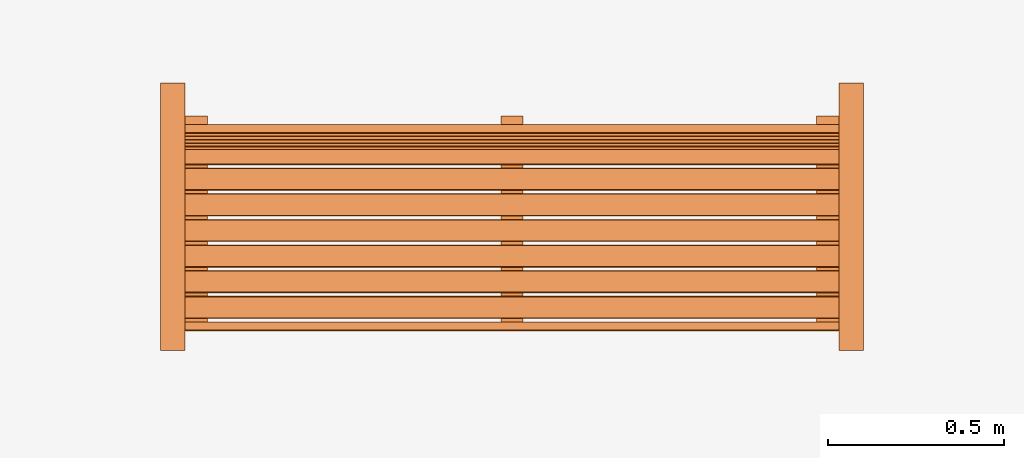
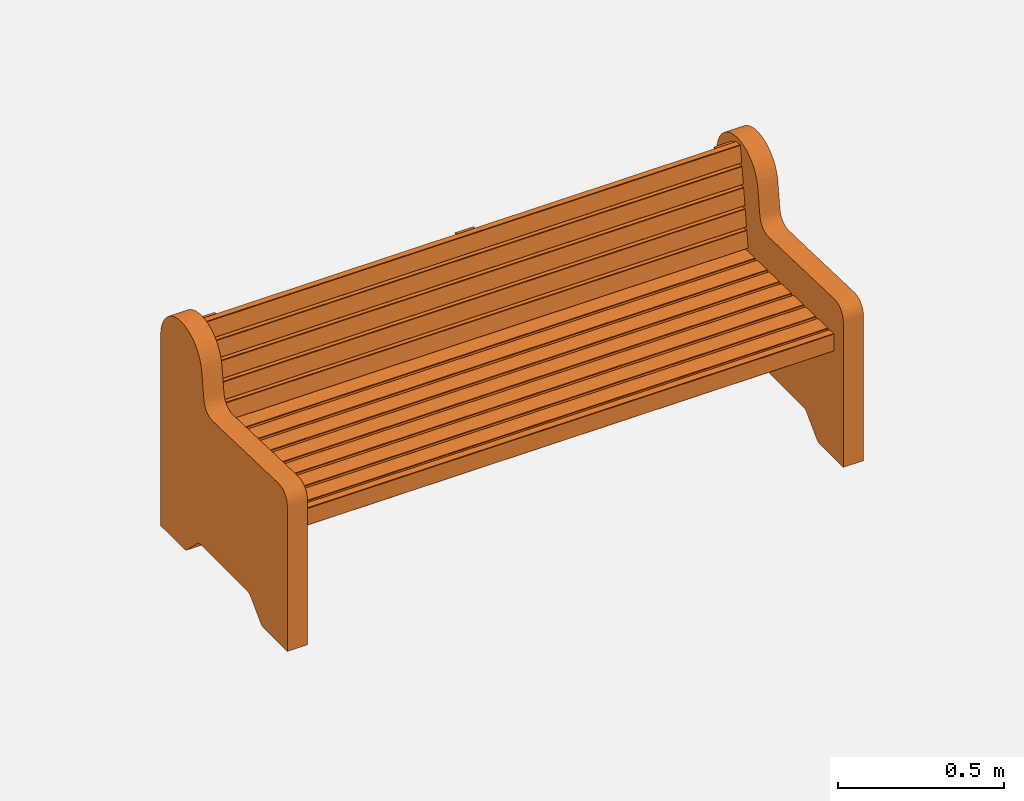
# One storey, part 4 of 6: 1 proxy.
"""IFC2X3 building model written with IfcOpenShell, lengths in millimetres."""

from ifc_helpers import new_model, entity, si_unit, converted_unit, derived_unit, direction, frame, frame_2d, origin, place, context, subcontext, project, spatial, polyline, circle_curve, parameter, trimmed, segment, composite_curve, outline, extrude, source, transform, mapped, material, material_list, element, save


model = new_model("IFC2X3")

# Units and contexts
model_context = context("Model", 3, precision=0.01, world=origin(), true_north=direction((6.12303176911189e-17, 1.0)))
body_context = subcontext(model_context, "Body", "Model", "MODEL_VIEW")
ifc_project = project(units=[si_unit("LENGTHUNIT", "METRE", prefix="MILLI"), si_unit("AREAUNIT", "SQUARE_METRE"), si_unit("VOLUMEUNIT", "CUBIC_METRE"), converted_unit("PLANEANGLEUNIT", "DEGREE", entity("IfcRatioMeasure", 0.0174532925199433), si_unit("PLANEANGLEUNIT", "RADIAN"), dimensions=[0, 0, 0, 0, 0, 0, 0]), si_unit("MASSUNIT", "GRAM", prefix="KILO"), derived_unit("MASSDENSITYUNIT", [(si_unit("MASSUNIT", "GRAM", prefix="KILO"), 1), (si_unit("LENGTHUNIT", "METRE"), -3)]), si_unit("TIMEUNIT", "SECOND"), si_unit("FREQUENCYUNIT", "HERTZ"), si_unit("THERMODYNAMICTEMPERATUREUNIT", "DEGREE_CELSIUS"), derived_unit("THERMALTRANSMITTANCEUNIT", [(si_unit("MASSUNIT", "GRAM", prefix="KILO"), 1), (si_unit("THERMODYNAMICTEMPERATUREUNIT", "KELVIN"), -1), (si_unit("TIMEUNIT", "SECOND"), -3)]), derived_unit("VOLUMETRICFLOWRATEUNIT", [(si_unit("LENGTHUNIT", "METRE"), 3), (si_unit("TIMEUNIT", "SECOND"), -1)]), si_unit("ELECTRICCURRENTUNIT", "AMPERE"), si_unit("ELECTRICVOLTAGEUNIT", "VOLT"), si_unit("POWERUNIT", "WATT"), si_unit("FORCEUNIT", "NEWTON", prefix="KILO"), si_unit("ILLUMINANCEUNIT", "LUX"), si_unit("LUMINOUSFLUXUNIT", "LUMEN"), si_unit("LUMINOUSINTENSITYUNIT", "CANDELA"), derived_unit("USERDEFINED", [(si_unit("MASSUNIT", "GRAM", prefix="KILO"), -1), (si_unit("LENGTHUNIT", "METRE"), -2), (si_unit("TIMEUNIT", "SECOND"), 3), (si_unit("LUMINOUSFLUXUNIT", "LUMEN"), 1)]), derived_unit("LINEARVELOCITYUNIT", [(si_unit("LENGTHUNIT", "METRE"), 1), (si_unit("TIMEUNIT", "SECOND"), -1)]), si_unit("PRESSUREUNIT", "PASCAL"), derived_unit("USERDEFINED", [(si_unit("LENGTHUNIT", "METRE"), -2), (si_unit("MASSUNIT", "GRAM", prefix="KILO"), 1), (si_unit("TIMEUNIT", "SECOND"), -2)])], contexts=[model_context])

# Site, building, storey
site_placement = place(None, origin())
site = spatial("IfcSite", under=ifc_project, at=site_placement, Name="表面", CompositionType="ELEMENT")
building_placement = place(site_placement, origin())
building = spatial("IfcBuilding", under=site, at=building_placement, CompositionType="ELEMENT")
storey_placement = place(building_placement, frame((0.0, 0.0, -450.0)))
storey = spatial("IfcBuildingStorey", under=building, at=storey_placement, Name="室外地坪", CompositionType="ELEMENT", Elevation=-449.999999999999)

# Proxy
ifc_material_1 = material(Name="木质座椅")
ifc_material_2 = material(Name="预制混凝土")
ifc_material_list = material_list([ifc_material_1, ifc_material_2])
shared_shape = source(origin(), body_context, "Body", "SweptSolid", [
    extrude(outline(polyline([(-148.388338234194, 117.2224287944), (362.786661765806, 117.2224287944), (362.786661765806, 142.6224287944), (-171.124368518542, 142.6224287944), (-215.652750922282, -258.443449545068), (-190.407865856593, -261.246265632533), (-148.388338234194, 117.2224287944)])), frame((8.11650433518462, 65.7169131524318, 539.475110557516), z_axis=(1.0, 0.0, 0.0), x_axis=(0.0, -0.999770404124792, 0.0214275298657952)), (0.0, 0.0, 1.0), 63.5),
    extrude(outline(polyline([(-148.388338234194, 117.2224287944), (362.786661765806, 117.2224287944), (362.786661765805, 142.6224287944), (-171.124368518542, 142.6224287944), (-215.652750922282, -258.443449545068), (-190.407865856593, -261.246265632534), (-148.388338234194, 117.2224287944)])), frame((906.516504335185, 65.7169131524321, 539.475110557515), z_axis=(1.0, 0.0, 0.0), x_axis=(0.0, -0.999770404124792, 0.0214275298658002)), (0.0, 0.0, 1.0), 63.5000000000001),
    extrude(outline(polyline([(-148.388338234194, 117.2224287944), (362.786661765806, 117.2224287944), (362.786661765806, 142.6224287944), (-171.124368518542, 142.6224287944), (-215.652750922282, -258.443449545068), (-190.407865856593, -261.246265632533), (-148.388338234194, 117.2224287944)])), frame((-890.283495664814, 65.7169131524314, 539.475110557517), z_axis=(1.0, 0.0, 0.0), x_axis=(0.0, -0.999770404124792, 0.0214275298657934)), (0.0, 0.0, 1.0), 63.5000000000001),
    extrude(outline(composite_curve([segment(polyline([(-31.7499999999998, -15.8749999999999), (31.7500000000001, -15.8749999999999)]), True, "CONTINUOUS"), segment(polyline([(31.7500000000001, -15.8749999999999), (31.7500000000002, 6.34999999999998)]), True, "CONTINUOUS"), segment(trimmed(circle_curve(frame_2d((28.575, 6.34999999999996), x_axis=(0.131618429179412, -0.991300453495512)), 3.175), [parameter(82.4368748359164)], [parameter(172.436874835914)], True, "PARAMETER"), True, "CONTINUOUS"), segment(polyline([(28.5750000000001, 9.52500000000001), (-28.575, 9.52500000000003)]), True, "CONTINUOUS"), segment(trimmed(circle_curve(frame_2d((-28.575, 6.34999999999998), x_axis=(0.131618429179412, -0.991300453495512)), 3.175), [parameter(172.436874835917)], [parameter(262.436874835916)], True, "PARAMETER"), True, "CONTINUOUS"), segment(polyline([(-31.75, 6.34999999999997), (-31.7499999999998, -15.8749999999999)]), True, "CONTINUOUS")], self_intersect=False)), frame((-890.283495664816, 242.920754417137, 775.915760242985), z_axis=(1.0, 0.0, 0.0), x_axis=(0.0, 0.1316184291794, 0.991300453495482)), (0.0, 0.0, 1.0), 1860.3),
    extrude(outline(composite_curve([segment(polyline([(-31.7499999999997, -15.8749999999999), (31.7500000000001, -15.8749999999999)]), True, "CONTINUOUS"), segment(polyline([(31.7500000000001, -15.8749999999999), (31.7500000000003, 6.34999999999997)]), True, "CONTINUOUS"), segment(trimmed(circle_curve(frame_2d((28.5750000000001, 6.34999999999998), x_axis=(0.131618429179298, -0.991300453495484)), 3.175), [parameter(82.4368748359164)], [parameter(172.436874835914)], True, "PARAMETER"), True, "CONTINUOUS"), segment(polyline([(28.5750000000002, 9.52500000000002), (-28.5749999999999, 9.52500000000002)]), True, "CONTINUOUS"), segment(trimmed(circle_curve(frame_2d((-28.5749999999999, 6.34999999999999), x_axis=(0.131618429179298, -0.991300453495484)), 3.175), [parameter(172.436874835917)], [parameter(262.436874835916)], True, "PARAMETER"), True, "CONTINUOUS"), segment(polyline([(-31.7499999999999, 6.34999999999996), (-31.7499999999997, -15.8749999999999)]), True, "CONTINUOUS")], self_intersect=False)), frame((-890.283495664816, 233.309318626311, 703.526044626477), z_axis=(1.0, 0.0, 0.0), x_axis=(0.0, 0.1316184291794, 0.991300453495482)), (0.0, 0.0, 1.0), 1860.3),
    extrude(outline(composite_curve([segment(polyline([(-31.7499999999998, -15.875), (31.7500000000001, -15.875)]), True, "CONTINUOUS"), segment(polyline([(31.7500000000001, -15.875), (31.7500000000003, 6.34999999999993)]), True, "CONTINUOUS"), segment(trimmed(circle_curve(frame_2d((28.575, 6.34999999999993), x_axis=(0.131618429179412, -0.991300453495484)), 3.175), [parameter(82.4368748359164)], [parameter(172.436874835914)], True, "PARAMETER"), True, "CONTINUOUS"), segment(polyline([(28.5750000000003, 9.52499999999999), (-28.575, 9.52499999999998)]), True, "CONTINUOUS"), segment(trimmed(circle_curve(frame_2d((-28.5749999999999, 6.34999999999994), x_axis=(0.131618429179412, -0.991300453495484)), 3.175), [parameter(172.436874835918)], [parameter(262.436874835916)], True, "PARAMETER"), True, "CONTINUOUS"), segment(polyline([(-31.7499999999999, 6.34999999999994), (-31.7499999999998, -15.875)]), True, "CONTINUOUS")], self_intersect=False)), frame((-890.283495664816, 223.697882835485, 631.13632900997), z_axis=(1.0, 0.0, 0.0), x_axis=(0.0, 0.131618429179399, 0.991300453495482)), (0.0, 0.0, 1.0), 1860.3),
    extrude(outline(composite_curve([segment(polyline([(-31.75, -15.8749999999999), (31.75, -15.8749999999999)]), True, "CONTINUOUS"), segment(polyline([(31.75, -15.8749999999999), (31.7499999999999, 6.35000000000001)]), True, "CONTINUOUS"), segment(trimmed(circle_curve(frame_2d((28.5750000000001, 6.34999999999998), x_axis=(0.131618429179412, -0.991300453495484)), 3.175), [parameter(82.4368748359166)], [parameter(172.436874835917)], True, "PARAMETER"), True, "CONTINUOUS"), segment(polyline([(28.5750000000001, 9.52500000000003), (-28.575, 9.52500000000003)]), True, "CONTINUOUS"), segment(trimmed(circle_curve(frame_2d((-28.5749999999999, 6.34999999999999), x_axis=(0.131618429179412, -0.991300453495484)), 3.175), [parameter(172.436874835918)], [parameter(262.436874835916)], True, "PARAMETER"), True, "CONTINUOUS"), segment(polyline([(-31.7499999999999, 6.34999999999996), (-31.75, -15.8749999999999)]), True, "CONTINUOUS")], self_intersect=False)), frame((-890.283495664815, 214.08644704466, 558.746613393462), z_axis=(1.0, 0.0, 0.0), x_axis=(0.0, 0.1316184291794, 0.991300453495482)), (0.0, 0.0, 1.0), 1860.3),
    extrude(outline(composite_curve([segment(polyline([(-31.7499999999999, -15.8749999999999), (31.75, -15.8749999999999)]), True, "CONTINUOUS"), segment(polyline([(31.75, -15.8749999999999), (31.7499999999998, 6.34999999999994)]), True, "CONTINUOUS"), segment(trimmed(circle_curve(frame_2d((28.575, 6.34999999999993), x_axis=(0.131618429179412, -0.991300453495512)), 3.175), [parameter(82.4368748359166)], [parameter(172.436874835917)], True, "PARAMETER"), True, "CONTINUOUS"), segment(polyline([(28.575, 9.52499999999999), (-28.5750000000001, 9.52499999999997)]), True, "CONTINUOUS"), segment(trimmed(circle_curve(frame_2d((-28.575, 6.34999999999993), x_axis=(0.131618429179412, -0.991300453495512)), 3.17500000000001), [parameter(172.436874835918)], [parameter(262.436874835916)], True, "PARAMETER"), True, "CONTINUOUS"), segment(polyline([(-31.75, 6.34999999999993), (-31.7499999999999, -15.8749999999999)]), True, "CONTINUOUS")], self_intersect=False)), frame((-890.283495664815, 204.475011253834, 486.356897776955), z_axis=(1.0, 0.0, 0.0), x_axis=(0.0, 0.1316184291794, 0.991300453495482)), (0.0, 0.0, 1.0), 1860.3),
    extrude(outline(composite_curve([segment(polyline([(-31.7500000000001, -15.875), (31.7499999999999, -15.875)]), True, "CONTINUOUS"), segment(polyline([(31.7499999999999, -15.875), (31.7500000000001, 6.35000000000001)]), True, "CONTINUOUS"), segment(trimmed(circle_curve(frame_2d((28.575, 6.35000000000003), x_axis=(0.0214275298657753, -0.999770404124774)), 3.17499999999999), [parameter(88.7721990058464)], [parameter(178.772199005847)], True, "PARAMETER"), True, "CONTINUOUS"), segment(polyline([(28.575, 9.52500000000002), (-28.5749999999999, 9.52500000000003)]), True, "CONTINUOUS"), segment(trimmed(circle_curve(frame_2d((-28.575, 6.35000000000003), x_axis=(0.0214275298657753, -0.999770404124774)), 3.175), [parameter(178.772199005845)], [parameter(268.772199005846)], True, "PARAMETER"), True, "CONTINUOUS"), segment(polyline([(-31.75, 6.35), (-31.7500000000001, -15.875)]), True, "CONTINUOUS")], self_intersect=False)), frame((-890.283495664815, -315.505661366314, 424.044837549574), z_axis=(1.0, 0.0, 0.0), x_axis=(0.0, 0.0214275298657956, 0.999770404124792)), (0.0, 0.0, 1.0), 1860.3),
    extrude(outline(composite_curve([segment(polyline([(-31.7500000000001, -15.8749999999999), (31.7499999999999, -15.875)]), True, "CONTINUOUS"), segment(polyline([(31.7499999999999, -15.875), (31.75, 6.34999999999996)]), True, "CONTINUOUS"), segment(trimmed(circle_curve(frame_2d((28.575, 6.35), x_axis=(0.999770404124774, 0.0214275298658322)), 3.175), [parameter(358.772199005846)], [parameter(88.7721990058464)], True, "PARAMETER"), True, "CONTINUOUS"), segment(polyline([(28.575, 9.52499999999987), (-28.5750000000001, 9.525)]), True, "CONTINUOUS"), segment(trimmed(circle_curve(frame_2d((-28.5750000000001, 6.35000000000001), x_axis=(0.999770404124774, 0.0214275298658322)), 3.17499999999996), [parameter(88.7721990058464)], [parameter(178.772199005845)], True, "PARAMETER"), True, "CONTINUOUS"), segment(polyline([(-31.7500000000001, 6.3500000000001), (-31.7500000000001, -15.8749999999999)]), True, "CONTINUOUS")], self_intersect=False)), frame((-890.283495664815, -257.892555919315, 445.040151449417), z_axis=(1.0, 0.0, 0.0), x_axis=(0.0, 0.999770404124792, -0.0214275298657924)), (0.0, 0.0, 1.0), 1860.3),
    extrude(outline(composite_curve([segment(polyline([(-31.7500000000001, -15.8749999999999), (31.75, -15.875)]), True, "CONTINUOUS"), segment(polyline([(31.75, -15.875), (31.75, 6.34999999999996)]), True, "CONTINUOUS"), segment(trimmed(circle_curve(frame_2d((28.575, 6.35), x_axis=(0.999770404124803, 0.0214275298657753)), 3.175), [parameter(358.772199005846)], [parameter(88.7721990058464)], True, "PARAMETER"), True, "CONTINUOUS"), segment(polyline([(28.575, 9.52499999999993), (-28.575, 9.52500000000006)]), True, "CONTINUOUS"), segment(trimmed(circle_curve(frame_2d((-28.5750000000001, 6.35000000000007), x_axis=(0.999770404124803, 0.0214275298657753)), 3.17499999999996), [parameter(88.7721990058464)], [parameter(178.772199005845)], True, "PARAMETER"), True, "CONTINUOUS"), segment(polyline([(-31.75, 6.3500000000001), (-31.7500000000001, -15.8749999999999)]), True, "CONTINUOUS")], self_intersect=False)), frame((-890.283495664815, -184.884322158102, 443.475406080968), z_axis=(1.0, 0.0, 0.0), x_axis=(0.0, 0.999770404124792, -0.0214275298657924)), (0.0, 0.0, 1.0), 1860.3),
    extrude(outline(composite_curve([segment(polyline([(-31.7500000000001, -15.875), (31.75, -15.875)]), True, "CONTINUOUS"), segment(polyline([(31.75, -15.875), (31.75, 6.34999999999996)]), True, "CONTINUOUS"), segment(trimmed(circle_curve(frame_2d((28.575, 6.34999999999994), x_axis=(0.999770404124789, 0.0214275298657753)), 3.175), [parameter(358.772199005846)], [parameter(88.7721990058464)], True, "PARAMETER"), True, "CONTINUOUS"), segment(polyline([(28.575, 9.52499999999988), (-28.575, 9.525)]), True, "CONTINUOUS"), segment(trimmed(circle_curve(frame_2d((-28.575, 6.35000000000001), x_axis=(0.999770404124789, 0.0214275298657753)), 3.17499999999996), [parameter(88.7721990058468)], [parameter(178.772199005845)], True, "PARAMETER"), True, "CONTINUOUS"), segment(polyline([(-31.75, 6.3500000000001), (-31.7500000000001, -15.875)]), True, "CONTINUOUS")], self_intersect=False)), frame((-890.283495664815, -111.876088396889, 441.910660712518), z_axis=(1.0, 0.0, 0.0), x_axis=(0.0, 0.999770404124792, -0.0214275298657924)), (0.0, 0.0, 1.0), 1860.3),
    extrude(outline(composite_curve([segment(polyline([(-31.7500000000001, -15.8749999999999), (31.75, -15.875)]), True, "CONTINUOUS"), segment(polyline([(31.75, -15.875), (31.75, 6.34999999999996)]), True, "CONTINUOUS"), segment(trimmed(circle_curve(frame_2d((28.575, 6.35), x_axis=(0.999770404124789, 0.0214275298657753)), 3.175), [parameter(358.772199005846)], [parameter(88.7721990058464)], True, "PARAMETER"), True, "CONTINUOUS"), segment(polyline([(28.575, 9.52499999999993), (-28.575, 9.525)]), True, "CONTINUOUS"), segment(trimmed(circle_curve(frame_2d((-28.575, 6.35000000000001), x_axis=(0.999770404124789, 0.0214275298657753)), 3.17499999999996), [parameter(88.7721990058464)], [parameter(178.772199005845)], True, "PARAMETER"), True, "CONTINUOUS"), segment(polyline([(-31.75, 6.3500000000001), (-31.7500000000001, -15.8749999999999)]), True, "CONTINUOUS")], self_intersect=False)), frame((-890.283495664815, -38.867854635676, 440.345915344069), z_axis=(1.0, 0.0, 0.0), x_axis=(0.0, 0.999770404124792, -0.0214275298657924)), (0.0, 0.0, 1.0), 1860.3),
    extrude(outline(composite_curve([segment(polyline([(-31.75, -15.8749999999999), (31.75, -15.8749999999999)]), True, "CONTINUOUS"), segment(polyline([(31.75, -15.8749999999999), (31.75, 6.35000000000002)]), True, "CONTINUOUS"), segment(trimmed(circle_curve(frame_2d((28.575, 6.35), x_axis=(0.999770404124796, 0.0214275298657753)), 3.175), [parameter(358.772199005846)], [parameter(88.7721990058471)], True, "PARAMETER"), True, "CONTINUOUS"), segment(polyline([(28.5750000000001, 9.52499999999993), (-28.575, 9.52500000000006)]), True, "CONTINUOUS"), segment(trimmed(circle_curve(frame_2d((-28.575, 6.35000000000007), x_axis=(0.999770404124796, 0.0214275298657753)), 3.17499999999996), [parameter(88.7721990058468)], [parameter(178.772199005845)], True, "PARAMETER"), True, "CONTINUOUS"), segment(polyline([(-31.75, 6.35000000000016), (-31.75, -15.8749999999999)]), True, "CONTINUOUS")], self_intersect=False)), frame((-890.283495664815, 34.1403791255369, 438.781169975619), z_axis=(1.0, 0.0, 0.0), x_axis=(0.0, 0.999770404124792, -0.0214275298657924)), (0.0, 0.0, 1.0), 1860.3),
    extrude(outline(composite_curve([segment(polyline([(-31.7500000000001, -15.8749999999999), (31.75, -15.875)]), True, "CONTINUOUS"), segment(polyline([(31.75, -15.875), (31.75, 6.34999999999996)]), True, "CONTINUOUS"), segment(trimmed(circle_curve(frame_2d((28.575, 6.35), x_axis=(0.999770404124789, 0.0214275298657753)), 3.175), [parameter(358.772199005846)], [parameter(88.7721990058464)], True, "PARAMETER"), True, "CONTINUOUS"), segment(polyline([(28.575, 9.52499999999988), (-28.575, 9.525)]), True, "CONTINUOUS"), segment(trimmed(circle_curve(frame_2d((-28.575, 6.35000000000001), x_axis=(0.999770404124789, 0.0214275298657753)), 3.17499999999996), [parameter(88.7721990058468)], [parameter(178.772199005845)], True, "PARAMETER"), True, "CONTINUOUS"), segment(polyline([(-31.75, 6.3500000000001), (-31.7500000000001, -15.8749999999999)]), True, "CONTINUOUS")], self_intersect=False)), frame((-890.283495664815, 107.14861288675, 437.216424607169), z_axis=(1.0, 0.0, 0.0), x_axis=(0.0, 0.999770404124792, -0.0214275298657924)), (0.0, 0.0, 1.0), 1860.3),
    extrude(outline(composite_curve([segment(polyline([(-31.75, -15.8749999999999), (31.75, -15.8749999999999)]), True, "CONTINUOUS"), segment(polyline([(31.75, -15.8749999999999), (31.75, 6.35000000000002)]), True, "CONTINUOUS"), segment(trimmed(circle_curve(frame_2d((28.5750000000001, 6.35000000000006), x_axis=(0.999770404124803, 0.0214275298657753)), 3.175), [parameter(358.772199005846)], [parameter(88.7721990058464)], True, "PARAMETER"), True, "CONTINUOUS"), segment(polyline([(28.5750000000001, 9.52499999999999), (-28.575, 9.52500000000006)]), True, "CONTINUOUS"), segment(trimmed(circle_curve(frame_2d((-28.575, 6.35000000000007), x_axis=(0.999770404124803, 0.0214275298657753)), 3.175), [parameter(88.7721990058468)], [parameter(178.772199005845)], True, "PARAMETER"), True, "CONTINUOUS"), segment(polyline([(-31.75, 6.35000000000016), (-31.75, -15.8749999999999)]), True, "CONTINUOUS")], self_intersect=False)), frame((-890.283495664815, 180.156846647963, 435.65167923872), z_axis=(1.0, 0.0, 0.0), x_axis=(0.0, 0.999770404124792, -0.0214275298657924)), (0.0, 0.0, 1.0), 1860.3),
    extrude(outline(composite_curve([segment(trimmed(circle_curve(frame_2d((-447.323749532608, 257.078722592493), x_axis=(1.0, 0.0)), 124.344745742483), [parameter(90.0000000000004)], [parameter(262.132280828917)], True, "PARAMETER"), True, "CONTINUOUS"), segment(polyline([(-464.344862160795, 133.904465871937), (-365.156852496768, 120.734926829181)]), True, "CONTINUOUS"), segment(trimmed(circle_curve(frame_2d((-371.843068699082, 70.3768637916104), x_axis=(1.0, 0.0)), 50.8), [parameter(358.244312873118)], [parameter(82.4368748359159)], True, "PARAMETER"), False, "CONTINUOUS"), segment(polyline([(-321.06691652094, 68.8204673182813), (-333.237946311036, -328.249348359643)]), True, "CONTINUOUS"), segment(trimmed(circle_curve(frame_2d((-282.461794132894, -329.805744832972), x_axis=(1.0, 0.0)), 50.8), [parameter(178.244312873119)], [parameter(270.0)], True, "PARAMETER"), True, "CONTINUOUS"), segment(polyline([(-282.461794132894, -380.605744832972), (251.839212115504, -380.605744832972)]), True, "CONTINUOUS"), segment(polyline([(251.839212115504, -380.605744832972), (251.839212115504, -238.726769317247)]), True, "CONTINUOUS"), segment(trimmed(circle_curve(frame_2d((226.439212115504, -238.726769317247), x_axis=(1.0, 0.0)), 25.4), [parameter(0.0)], [parameter(45.0000000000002)], True, "PARAMETER"), True, "CONTINUOUS"), segment(polyline([(244.399724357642, -220.766257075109), (183.078699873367, -159.445232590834)]), True, "CONTINUOUS"), segment(trimmed(circle_curve(frame_2d((201.039212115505, -141.484720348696), x_axis=(1.0, 0.0)), 25.4), [parameter(180.0)], [parameter(225.0)], True, "PARAMETER"), False, "CONTINUOUS"), segment(polyline([(175.639212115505, -141.484720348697), (175.639212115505, 142.273230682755)]), True, "CONTINUOUS"), segment(trimmed(circle_curve(frame_2d((201.039212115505, 142.273230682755), x_axis=(1.0, 0.0)), 25.4), [parameter(135.0)], [parameter(179.999999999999)], True, "PARAMETER"), False, "CONTINUOUS"), segment(polyline([(183.078699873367, 160.233742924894), (244.399724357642, 221.554767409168)]), True, "CONTINUOUS"), segment(trimmed(circle_curve(frame_2d((226.439212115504, 239.515279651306), x_axis=(1.0, 0.0)), 25.4), [parameter(315.0)], [parameter(3.56222124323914e-13)], True, "PARAMETER"), True, "CONTINUOUS"), segment(polyline([(251.839212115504, 239.515279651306), (251.839212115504, 381.423468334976)]), True, "CONTINUOUS"), segment(polyline([(251.839212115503, 381.423468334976), (-447.323749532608, 381.423468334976)]), True, "CONTINUOUS")], self_intersect=False)), frame((970.016504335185, -0.394255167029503, 251.839212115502), z_axis=(1.0, 0.0, 0.0), x_axis=(0.0, 0.0, -1.0)), (0.0, 0.0, 1.0), 69.85),
    extrude(outline(composite_curve([segment(trimmed(circle_curve(frame_2d((-447.323749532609, 257.078722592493), x_axis=(1.0, 0.0)), 124.344745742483), [parameter(90.0000000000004)], [parameter(262.132280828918)], True, "PARAMETER"), True, "CONTINUOUS"), segment(polyline([(-464.344862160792, 133.904465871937), (-365.156852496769, 120.734926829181)]), True, "CONTINUOUS"), segment(trimmed(circle_curve(frame_2d((-371.843068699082, 70.3768637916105), x_axis=(1.0, 0.0)), 50.8), [parameter(358.244312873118)], [parameter(82.4368748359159)], True, "PARAMETER"), False, "CONTINUOUS"), segment(polyline([(-321.06691652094, 68.8204673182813), (-333.237946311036, -328.249348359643)]), True, "CONTINUOUS"), segment(trimmed(circle_curve(frame_2d((-282.461794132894, -329.805744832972), x_axis=(1.0, 0.0)), 50.8), [parameter(178.244312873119)], [parameter(270.0)], True, "PARAMETER"), True, "CONTINUOUS"), segment(polyline([(-282.461794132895, -380.605744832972), (251.839212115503, -380.605744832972)]), True, "CONTINUOUS"), segment(polyline([(251.839212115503, -380.605744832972), (251.839212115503, -238.726769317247)]), True, "CONTINUOUS"), segment(trimmed(circle_curve(frame_2d((226.439212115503, -238.726769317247), x_axis=(1.0, 0.0)), 25.4), [parameter(0.0)], [parameter(45.0000000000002)], True, "PARAMETER"), True, "CONTINUOUS"), segment(polyline([(244.399724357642, -220.766257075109), (183.078699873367, -159.445232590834)]), True, "CONTINUOUS"), segment(trimmed(circle_curve(frame_2d((201.039212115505, -141.484720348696), x_axis=(1.0, 0.0)), 25.4), [parameter(180.0)], [parameter(225.0)], True, "PARAMETER"), False, "CONTINUOUS"), segment(polyline([(175.639212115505, -141.484720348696), (175.639212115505, 142.273230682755)]), True, "CONTINUOUS"), segment(trimmed(circle_curve(frame_2d((201.039212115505, 142.273230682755), x_axis=(1.0, 0.0)), 25.4), [parameter(135.0)], [parameter(179.999999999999)], True, "PARAMETER"), False, "CONTINUOUS"), segment(polyline([(183.078699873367, 160.233742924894), (244.399724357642, 221.554767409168)]), True, "CONTINUOUS"), segment(trimmed(circle_curve(frame_2d((226.439212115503, 239.515279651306), x_axis=(1.0, 0.0)), 25.4), [parameter(315.0)], [parameter(3.56222124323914e-13)], True, "PARAMETER"), True, "CONTINUOUS"), segment(polyline([(251.839212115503, 239.515279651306), (251.839212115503, 381.423468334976)]), True, "CONTINUOUS"), segment(polyline([(251.839212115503, 381.423468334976), (-447.323749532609, 381.423468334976)]), True, "CONTINUOUS")], self_intersect=False)), frame((-960.133495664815, -0.394255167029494, 251.839212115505), z_axis=(1.0, 0.0, 0.0), x_axis=(0.0, 0.0, -1.0)), (0.0, 0.0, 1.0), 69.85),
])
proxy_placement = place(storey_placement, frame((-8620.11641698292, -34136.868426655, 100.0)))
element("IfcBuildingElementProxy", 1, at=proxy_placement, inside=storey, material=ifc_material_list, Name="公园长椅 2:公园长椅 2", ObjectType="公园长椅 2", context=body_context, shape_type="MappedRepresentation", body=[
    mapped(shared_shape, transform((0.0, 0.0, 0.0), scale=1.0)),
])

save(model, "model.ifc")
